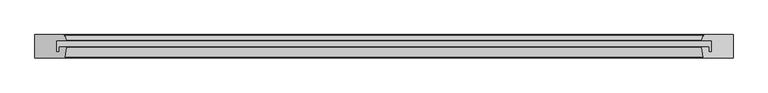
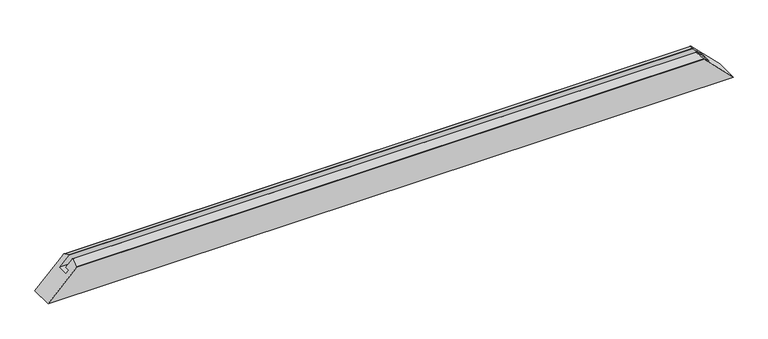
"""IFC4 building model written with IfcOpenShell, lengths in millimetres: proxy geometry, Weiku - Montante - Caixilho fixo 02.2.01.005 : Weiku - Montante - Caixilho fixo 02.2.01.005."""

from ifc_helpers import new_model, si_unit, frame, origin, place, context, project, spatial, ellipse_curve, source, transform, mapped, element, save
from ifc_brep_helpers import plane_surface, cylinder_surface, advanced_brep


def generic_models_da09ed57(model_context):
    return source(origin(), model_context, "Body", "AdvancedBrep", [
        advanced_brep(
        [(-680.618227, 38.5070552, 66.881773), (-683.1019557, 47.7764571, 64.3980443), (-685.9997332, 50.0, 61.5002668), (-747.5, 50.0, 0.0), (-747.5, 0.0, 0.0), (-685.0355572, 0.0, 62.4644428), (-684.0489094, 0.8371317, 63.4510906), (-680.4998537, 22.3371317, 67.0001463), (-681.4865015, 23.5, 66.0134985), (-695.5009154, 23.5, 51.9990846), (-695.5009154, 12.5, 51.9990846), (-701.5, 12.5, 46.0), (-701.5, 37.5, 46.0), (-681.3909676, 37.5, 66.1090324), (683.1019557, 47.7764571, 64.3980443), (680.618227, 38.5070552, 66.881773), (681.3909676, 37.5, 66.1090324), (701.5, 37.5, 46.0), (701.5, 12.5, 46.0), (695.5009154, 12.5, 51.9990846), (695.5009154, 23.5, 51.9990846), (681.4865015, 23.5, 66.0134985), (680.4998537, 22.3371317, 67.0001463), (684.0489094, 0.8371317, 63.4510906), (685.0355572, 0.0, 62.4644428), (747.5, 0.0, 0.0), (747.5, 50.0, 0.0), (685.9997332, 50.0, 61.5002668)],
        [
            (0, 1),
            (1, 2, ellipse_curve(frame((-685.9997332, 47.0, 61.5002668), z_axis=(-0.7071067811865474, 0.0, 0.7071067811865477), x_axis=(-0.7071067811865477, 0.0, -0.7071067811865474)), 4.2426407, 3.0)),
            (2, 3),
            (3, 4),
            (4, 5),
            (5, 6, ellipse_curve(frame((-685.0355572, 1.0, 62.4644428), z_axis=(-0.7071067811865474, 0.0, 0.7071067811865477), x_axis=(-0.7071067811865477, 0.0, -0.7071067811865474)), 1.4142136, 1.0)),
            (6, 7),
            (7, 8, ellipse_curve(frame((-681.4865015, 22.5, 66.0134985), z_axis=(-0.7071067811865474, 0.0, 0.7071067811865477), x_axis=(-0.7071067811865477, 0.0, -0.7071067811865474)), 1.4142136, 1.0)),
            (8, 9),
            (9, 10),
            (10, 11),
            (11, 12),
            (12, 13),
            (13, 0, ellipse_curve(frame((-681.3909676, 38.3, 66.1090324), z_axis=(-0.7071067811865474, 0.0, 0.7071067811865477), x_axis=(-0.7071067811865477, 0.0, -0.7071067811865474)), 1.1313708, 0.8)),
            (14, 15),
            (15, 16, ellipse_curve(frame((681.3909676, 38.3, 66.1090324), z_axis=(0.7071067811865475, 0.0, 0.7071067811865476), x_axis=(-0.7071067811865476, 0.0, 0.7071067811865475)), 1.1313708, 0.8)),
            (16, 17),
            (17, 18),
            (18, 19),
            (19, 20),
            (20, 21),
            (21, 22, ellipse_curve(frame((681.4865015, 22.5, 66.0134985), z_axis=(0.7071067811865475, 0.0, 0.7071067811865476), x_axis=(-0.7071067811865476, 0.0, 0.7071067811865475)), 1.4142136, 1.0)),
            (22, 23),
            (23, 24, ellipse_curve(frame((685.0355572, 1.0, 62.4644428), z_axis=(0.7071067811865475, 0.0, 0.7071067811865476), x_axis=(-0.7071067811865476, 0.0, 0.7071067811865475)), 1.4142136, 1.0)),
            (24, 25),
            (25, 26),
            (26, 27),
            (27, 14, ellipse_curve(frame((685.9997332, 47.0, 61.5002668), z_axis=(0.7071067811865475, 0.0, 0.7071067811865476), x_axis=(-0.7071067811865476, 0.0, 0.7071067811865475)), 4.2426407, 3.0)),
            (0, 15),
            (14, 1),
            (27, 2),
            (26, 3),
            (25, 4),
            (24, 5),
            (23, 6),
            (22, 7),
            (21, 8),
            (20, 9),
            (19, 10),
            (18, 11),
            (17, 12),
            (16, 13),
        ],
        [
            plane_surface(frame((-817.5, -15.0, -70.0), z_axis=(-0.7071067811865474, 0.0, 0.7071067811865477), x_axis=(0.0, 1.0, 0.0))),
            plane_surface(frame((677.5, -15.0, 70.0), z_axis=(0.7071067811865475, 0.0, 0.7071067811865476), x_axis=(0.0, 1.0, 0.0))),
            plane_surface(frame((-747.5, 38.5070552, 66.881773), z_axis=(0.0, 0.2588190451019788, 0.9659258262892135), x_axis=(1.0, 0.0, 0.0))),
            cylinder_surface(frame((-747.5, 47.0, 61.5002668), z_axis=(-1.0, 0.0, 0.0), x_axis=(0.0, -1.0, 0.0)), 3.0),
            plane_surface(frame((-747.5, 50.0, 61.5002668), z_axis=(0.0, 1.0, 0.0), x_axis=(1.0, 0.0, 0.0))),
            plane_surface(frame((-747.5, 50.0, 0.0), z_axis=(0.0, 0.0, -1.0), x_axis=(1.0, 0.0, 0.0))),
            plane_surface(frame((-747.5, 0.0, 0.0), z_axis=(0.0, -1.0, 0.0), x_axis=(1.0, 0.0, 0.0))),
            cylinder_surface(frame((-747.5, 1.0, 62.4644428), z_axis=(-1.0, 0.0, 0.0), x_axis=(0.0, 1.0, 0.0)), 1.0),
            plane_surface(frame((-747.5, 0.8371317, 63.4510906), z_axis=(0.0, -0.16286828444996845, 0.9866478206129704), x_axis=(1.0, 0.0, 0.0))),
            cylinder_surface(frame((-747.5, 22.5, 66.0134985), z_axis=(-1.0, 0.0, 0.0), x_axis=(0.0, 1.0, 0.0)), 1.0),
            plane_surface(frame((-747.5, 23.5, 66.0134985), z_axis=(0.0, 1.0, 0.0), x_axis=(1.0, 0.0, 0.0))),
            plane_surface(frame((-747.5, 23.5, 51.9990846), z_axis=(0.0, 0.0, -1.0), x_axis=(1.0, 0.0, 0.0))),
            plane_surface(frame((-747.5, 12.5, 51.9990846), z_axis=(0.0, 1.0, 0.0), x_axis=(1.0, 0.0, 0.0))),
            plane_surface(frame((-747.5, 12.5, 46.0), z_axis=(0.0, 0.0, 1.0), x_axis=(1.0, 0.0, 0.0))),
            plane_surface(frame((-747.5, 37.5, 46.0), z_axis=(0.0, -1.0, 0.0), x_axis=(1.0, 0.0, 0.0))),
            cylinder_surface(frame((-747.5, 38.3, 66.1090324), z_axis=(-1.0, 0.0, 0.0), x_axis=(0.0, -1.0, 0.0)), 0.8),
        ],
        [
            (0, [[1, 2, 3, 4, 5, 6, 7, 8, 9, 10, 11, 12, 13, 14]]),
            (1, [[15, 16, 17, 18, 19, 20, 21, 22, 23, 24, 25, 26, 27, 28]]),
            (2, [[-1, 29, -15, 30]]),
            (3, [[-2, -30, -28, 31]]),
            (4, [[32, -3, -31, -27]]),
            (5, [[-32, -26, 33, -4]]),
            (6, [[-33, -25, 34, -5]]),
            (7, [[-6, -34, -24, 35]]),
            (8, [[-7, -35, -23, 36]]),
            (9, [[-8, -36, -22, 37]]),
            (10, [[-9, -37, -21, 38]]),
            (11, [[-10, -38, -20, 39]]),
            (12, [[-11, -39, -19, 40]]),
            (13, [[-12, -40, -18, 41]]),
            (14, [[-13, -41, -17, 42]]),
            (15, [[-14, -42, -16, -29]]),
        ],
    ),
    ])


if __name__ == "__main__":
    model = new_model("IFC4")
    model_context = context("Model", 3, world=origin())
    ifc_project = project(units=[si_unit("LENGTHUNIT", "METRE", prefix="MILLI")], contexts=[model_context])
    site = spatial("IfcSite", under=ifc_project)
    building = spatial("IfcBuilding", under=site)
    placement = place(None, origin())
    generic_models_shape = generic_models_da09ed57(model_context)
    element("IfcBuildingElementProxy", 1, Name="Weiku - Montante - Caixilho fixo 02.2.01.005 : Weiku - Montante - Caixilho fixo 02.2.01.005", ObjectType="Weiku - Montante - Caixilho fixo 02.2.01.005 : Weiku - Montante - Caixilho fixo 02.2.01.005", at=placement, inside=building, context=model_context, shape_type="MappedRepresentation", body=[
        mapped(generic_models_shape, transform((0.0, 0.0, 0.0), x_axis=(1.0, 0.0, 0.0), y_axis=(0.0, 1.0, 0.0), z_axis=(0.0, 0.0, 1.0))),
    ])
    save(model, "model.ifc")
